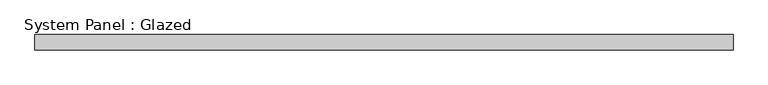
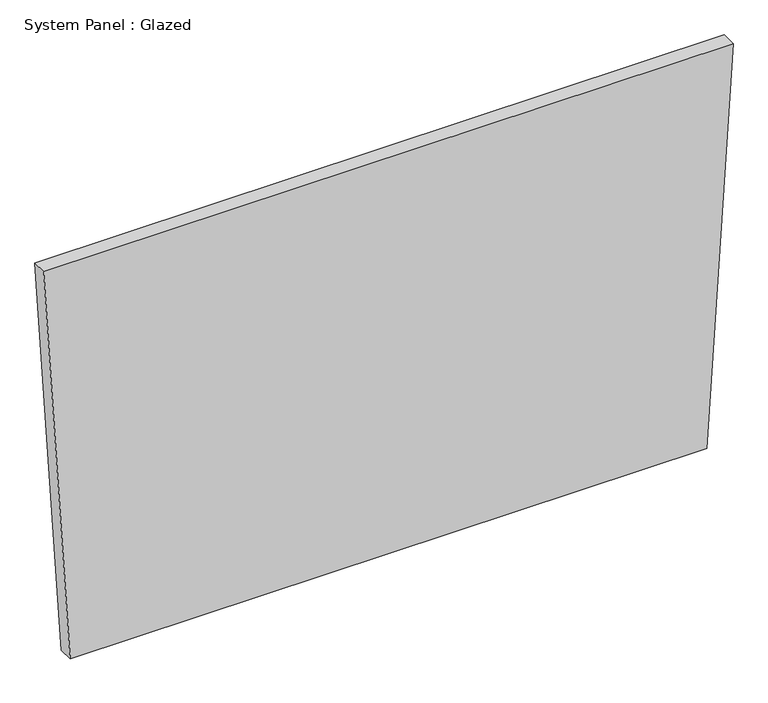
"""IFC4 building model written with IfcOpenShell, lengths in millimetres: plate geometry, System Panel : Glazed."""

from ifc_helpers import new_model, si_unit, frame, origin, place, context, project, spatial, polyline, outline, extrude, source, transform, mapped, element, save


def system_panel_glazed_2de7df7e(model_context):
    return source(origin(), model_context, "Body", "SweptSolid", [
        extrude(outline(polyline([(0.000932, -535.195803), (0.0, 535.1956793), (704.4160202, 579.6691637), (704.4149919, -579.6691637), (0.000932, -535.195803)])), frame((0.0, 19.05, 0.0), z_axis=(0.0, 1.0, 0.0), x_axis=(0.0, 0.0, 1.0)), (0.0, 0.0, 1.0), 25.4),
    ])


if __name__ == "__main__":
    model = new_model("IFC4")
    model_context = context("Model", 3, world=origin())
    ifc_project = project(units=[si_unit("LENGTHUNIT", "METRE", prefix="MILLI")], contexts=[model_context])
    site = spatial("IfcSite", under=ifc_project)
    building = spatial("IfcBuilding", under=site)
    placement = place(None, origin())
    system_panel_glazed_shape = system_panel_glazed_2de7df7e(model_context)
    element("IfcPlate", 1, ObjectType="System Panel : Glazed", at=placement, inside=building, context=model_context, shape_type="MappedRepresentation", body=[
        mapped(system_panel_glazed_shape, transform((0.0, 0.0, 0.0), x_axis=(1.0, 0.0, 0.0), y_axis=(0.0, 1.0, 0.0), z_axis=(0.0, 0.0, 1.0))),
    ])
    save(model, "model.ifc")
